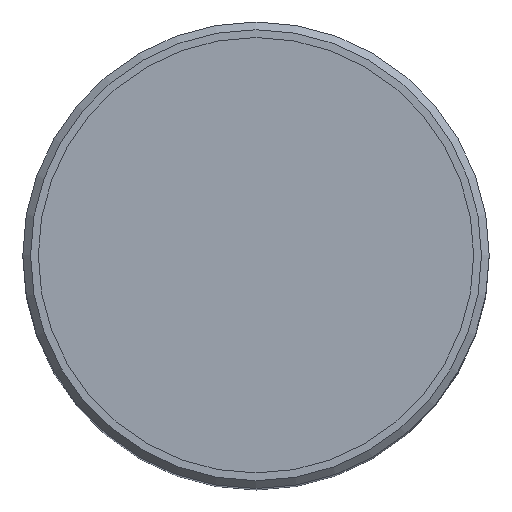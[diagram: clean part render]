
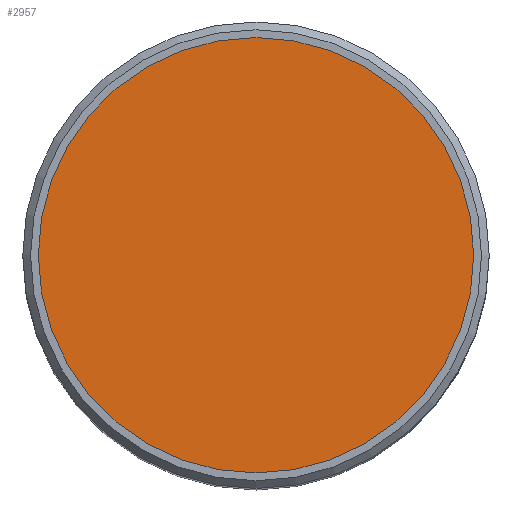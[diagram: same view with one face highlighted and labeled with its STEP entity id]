
A CAD part, top view. The second image highlights one B-rep face of the part: STEP entity #2957.
In plain terms, the highlighted planar face has unit normal (0, 0, 1).
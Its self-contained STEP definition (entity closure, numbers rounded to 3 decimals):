
#736=FACE_OUTER_BOUND('',#947,.T.);
#947=EDGE_LOOP('',(#2573));
#1105=CIRCLE('',#3315,5.6);
#1383=VERTEX_POINT('',#7202);
#1780=EDGE_CURVE('',#1383,#1383,#1105,.T.);
#2573=ORIENTED_EDGE('',*,*,#1780,.T.);
#2606=PLANE('',#3316);
#2957=ADVANCED_FACE('',(#736),#2606,.F.);
#3315=AXIS2_PLACEMENT_3D('',#7203,#4108,#4109);
#3316=AXIS2_PLACEMENT_3D('',#7204,#4110,#4111);
#4108=DIRECTION('center_axis',(0.,0.,
1.));
#4109=DIRECTION('ref_axis',(0.,1.,0.));
#4110=DIRECTION('center_axis',(0.,0.,
-1.));
#4111=DIRECTION('ref_axis',(1.,0.,0.));
#7202=CARTESIAN_POINT('',(0.,-3.455,6.443));
#7203=CARTESIAN_POINT('Origin',(0.,2.145,
6.443));
#7204=CARTESIAN_POINT('Origin',(0.,2.145,
6.443));
